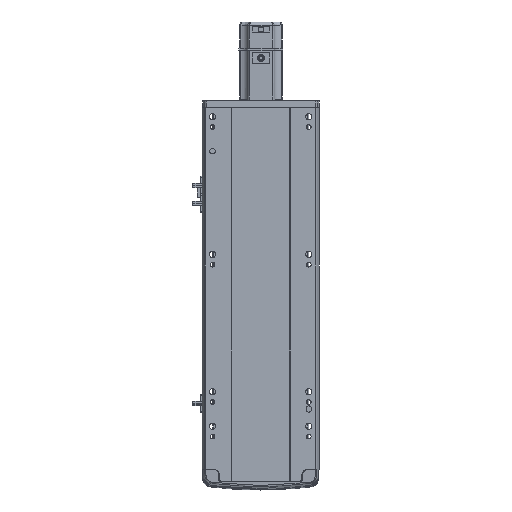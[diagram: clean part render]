
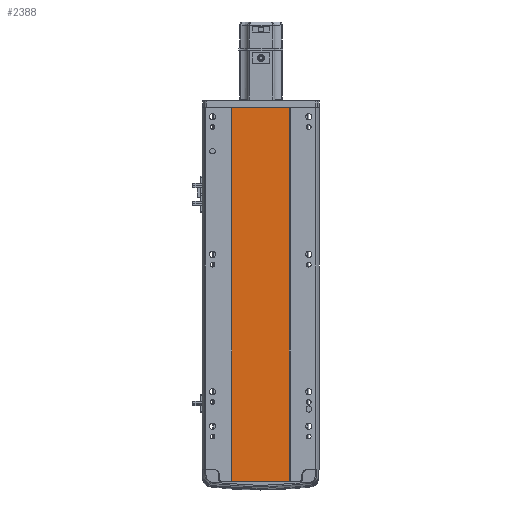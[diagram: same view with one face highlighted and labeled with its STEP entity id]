
A CAD part, front view. The second image highlights one B-rep face of the part: STEP entity #2388.
In plain terms, the highlighted planar face has unit normal (0, -1, 0).
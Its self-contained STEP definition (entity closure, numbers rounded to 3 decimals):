
#753 = ORIENTED_EDGE ( 'NONE', *, *, #45732, .T. ) ;
#2388 = ADVANCED_FACE ( 'NONE', ( #39776 ), #33182, .F. ) ;
#2457 = CARTESIAN_POINT ( 'NONE',  ( 41.793, 0.998, 543.5 ) ) ;
#3126 = EDGE_CURVE ( 'NONE', #4033, #36952, #29312, .T. ) ;
#3391 = ORIENTED_EDGE ( 'NONE', *, *, #21322, .F. ) ;
#3407 = DIRECTION ( 'NONE',  ( 0., 1., 0. ) ) ;
#4033 = VERTEX_POINT ( 'NONE', #17242 ) ;
#7281 = VECTOR ( 'NONE', #37380, 1000. ) ;
#8443 = LINE ( 'NONE', #48206, #7281 ) ;
#10855 = CARTESIAN_POINT ( 'NONE',  ( 41.793, 0.998, 0. ) ) ;
#13295 = CARTESIAN_POINT ( 'NONE',  ( -41.791, 1., 543.5 ) ) ;
#13718 = EDGE_LOOP ( 'NONE', ( #753, #15244, #3391, #48215 ) ) ;
#14020 = VECTOR ( 'NONE', #31753, 1000. ) ;
#15244 = ORIENTED_EDGE ( 'NONE', *, *, #25634, .F. ) ;
#16864 = CARTESIAN_POINT ( 'NONE',  ( -41.791, 1., 0. ) ) ;
#17242 = CARTESIAN_POINT ( 'NONE',  ( -41.791, 1., 543.5 ) ) ;
#20502 = VECTOR ( 'NONE', #28178, 1000. ) ;
#20942 = VERTEX_POINT ( 'NONE', #22523 ) ;
#21322 = EDGE_CURVE ( 'NONE', #4033, #20942, #8443, .T. ) ;
#22523 = CARTESIAN_POINT ( 'NONE',  ( 41.793, 0.998, 543.5 ) ) ;
#25634 = EDGE_CURVE ( 'NONE', #20942, #38017, #43873, .T. ) ;
#25717 = DIRECTION ( 'NONE',  ( 1., 0., 0. ) ) ;
#28178 = DIRECTION ( 'NONE',  ( 0., 0., -1. ) ) ;
#29312 = LINE ( 'NONE', #13295, #20502 ) ;
#29363 = VECTOR ( 'NONE', #25717, 1000. ) ;
#31753 = DIRECTION ( 'NONE',  ( 0., 0., -1. ) ) ;
#33182 = PLANE ( 'NONE',  #35375 ) ;
#33568 = CARTESIAN_POINT ( 'NONE',  ( 0., 0.999, 0. ) ) ;
#35375 = AXIS2_PLACEMENT_3D ( 'NONE', #44288, #3407, #44130 ) ;
#36952 = VERTEX_POINT ( 'NONE', #16864 ) ;
#37380 = DIRECTION ( 'NONE',  ( 1., 0., 0. ) ) ;
#38017 = VERTEX_POINT ( 'NONE', #10855 ) ;
#39776 = FACE_OUTER_BOUND ( 'NONE', #13718, .T. ) ;
#43873 = LINE ( 'NONE', #2457, #14020 ) ;
#44130 = DIRECTION ( 'NONE',  ( -1., 0., 0. ) ) ;
#44288 = CARTESIAN_POINT ( 'NONE',  ( 0., 0.999, 543.5 ) ) ;
#45156 = LINE ( 'NONE', #33568, #29363 ) ;
#45732 = EDGE_CURVE ( 'NONE', #36952, #38017, #45156, .T. ) ;
#48206 = CARTESIAN_POINT ( 'NONE',  ( 0., 0.999, 543.5 ) ) ;
#48215 = ORIENTED_EDGE ( 'NONE', *, *, #3126, .T. ) ;
